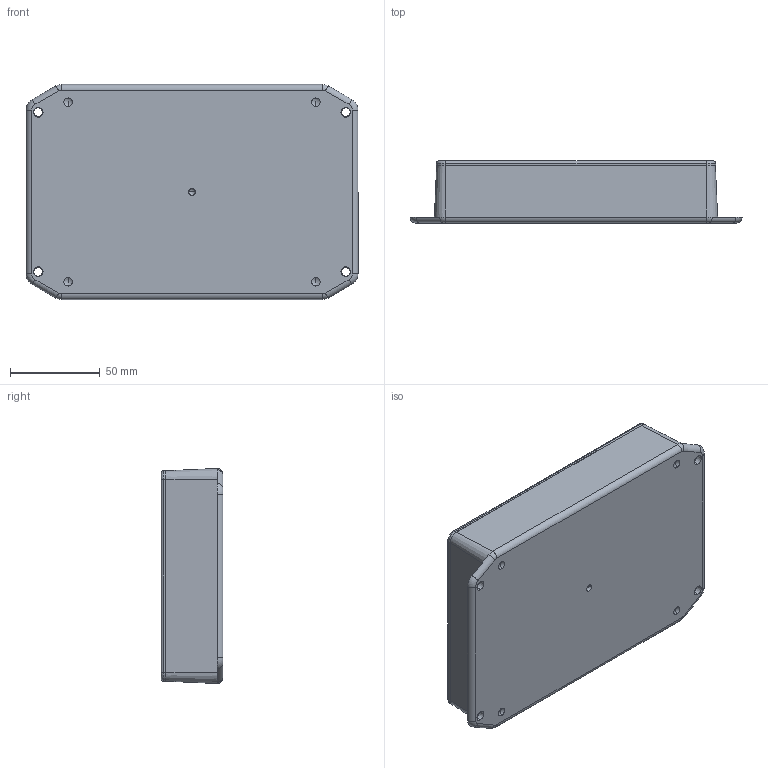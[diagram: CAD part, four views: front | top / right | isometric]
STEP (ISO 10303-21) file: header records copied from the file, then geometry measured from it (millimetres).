
FILE_DESCRIPTION (( 'STEP AP214' ), '1' );
FILE_NAME ('DC-45FMBYT_ASS''Y.STEP', '2010-08-23T12:11:35', ( '' ), ( '' ), 'SwSTEP 2.0', 'SolidWorks 2010', '' );
FILE_SCHEMA (( 'AUTOMOTIVE_DESIGN' ));
Length unit declared in the file: inch
Products named in the file (4): DC-45B_DC-45BFMBY; DC-46C_DC-46C-T; SCREWS-DC-BR; DC-45FMBYT_ASS''Y
Assembly tree (6 placements, depth 2):
  DC-45FMBYT_ASS''Y
    SCREWS-DC-BR  x4
    DC-45B_DC-45BFMBY
    DC-46C_DC-46C-T
Bounding box: 185.04 x 34.47 x 119.89 mm (x, y, z)
Volume: 167031.9 mm3; surface area: 119631.9 mm2
Topology: 10 solids, 10 shells, 464 faces, 1108 edges, 714 vertices
Faces by surface type: plane 176, cylinder 160, cone 88, torus 20, sphere 12, bspline 8
Entity records: 12311 total; most frequent: CARTESIAN_POINT 2143, DIRECTION 2052, ORIENTED_EDGE 1784, EDGE_CURVE 892, AXIS2_PLACEMENT_3D 829, VERTEX_POINT 576, EDGE_LOOP 454, CIRCLE 442
